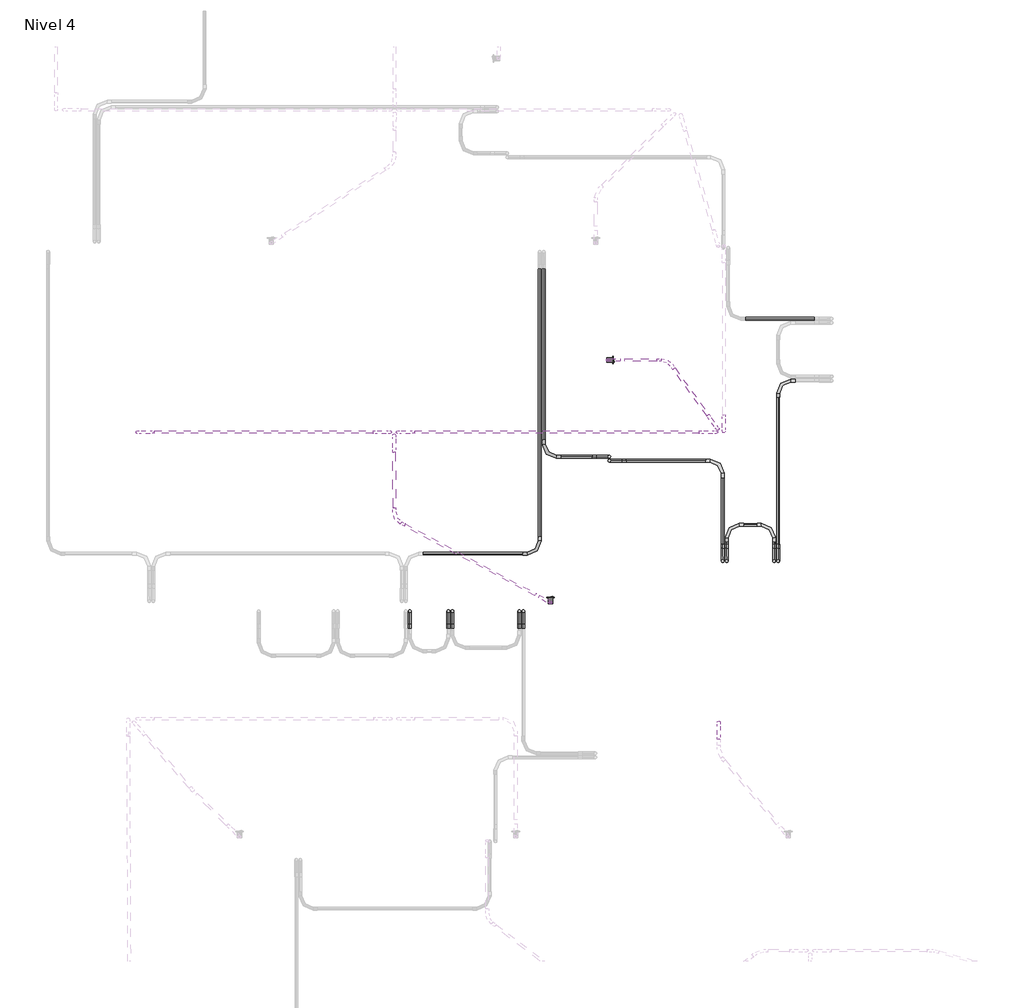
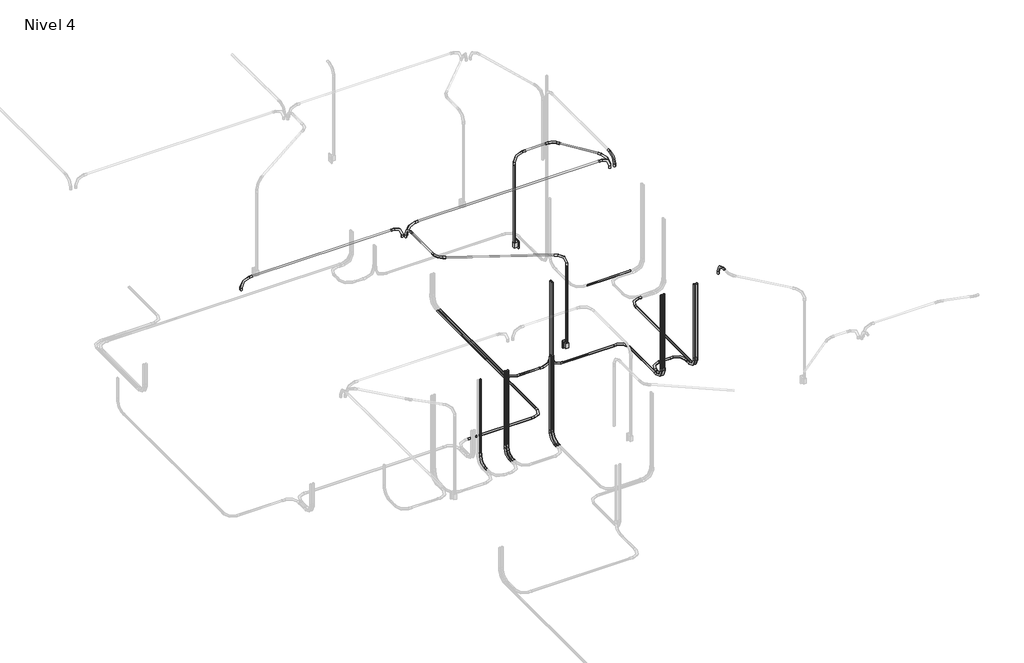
# One storey, part 6 of 9: 30 cable carrier segments, 29 cable carrier fittings, 2 switching devices.
"""IFC4 building model written with IfcOpenShell, lengths in millimetres."""

from ifc_helpers import new_model, si_unit, point, frame, frame_2d, origin, place, context, project, spatial, circle_curve, trimmed, segment, composite_curve, outline, extrude, transform, mapped, element, save
from components import m_codo_de_tubo_extremo_liso_pvc_9da73e12, m_codo_de_tubo_extremo_liso_pvc_102f0f41, m_codo_de_tubo_extremo_liso_pvc_7e29693c, m_codo_de_tubo_extremo_liso_pvc_4da0fa4a, switching_device_22fed34b

model = new_model("IFC4")

# Units and contexts
model_context = context("Model", 3, world=origin())
ifc_project = project(units=[si_unit("LENGTHUNIT", "METRE", prefix="MILLI")], contexts=[model_context])

# Site, building, storey
site = spatial("IfcSite", under=ifc_project)
building = spatial("IfcBuilding", under=site)
storey = spatial("IfcBuildingStorey", under=building, Name="Nivel 4", Elevation=8100.0)

# Cable carrier fittings
placement = place(None, origin())
m_codo_de_tubo_extremo_liso_pvc_shape = m_codo_de_tubo_extremo_liso_pvc_9da73e12(model_context)
element("IfcCableCarrierFitting", 1, ObjectType="M_Codo de tubo - Extremo liso - PVC : CODO POTENCIA", at=placement, inside=storey, context=model_context, shape_type="MappedRepresentation", body=[
    mapped(m_codo_de_tubo_extremo_liso_pvc_shape, transform((5861.9683714, 11082.7648472, 8030.0), x_axis=(-1.0, 0.0, 0.0), y_axis=(0.0, -1.0, 0.0), z_axis=(0.0, 0.0, 1.0))),
])
element("IfcCableCarrierFitting", 2, ObjectType="M_Codo de tubo - Extremo liso - PVC : CODO POTENCIA", at=placement, inside=storey, context=model_context, shape_type="MappedRepresentation", body=[
    mapped(m_codo_de_tubo_extremo_liso_pvc_shape, transform((5861.9683714, 9455.3628882, 8030.0), x_axis=(0.0, 0.0, -1.0), y_axis=(0.0, 1.0, 0.0), z_axis=(1.0, 0.0, 0.0))),
])
element("IfcCableCarrierFitting", 3, ObjectType="M_Codo de tubo - Extremo liso - PVC : CODO POTENCIA", at=placement, inside=storey, context=model_context, shape_type="MappedRepresentation", body=[
    mapped(m_codo_de_tubo_extremo_liso_pvc_shape, transform((5825.9047317, 9455.3628882, 8030.0), x_axis=(0.0, 0.0, -1.0), y_axis=(0.0, 1.0, 0.0), z_axis=(1.0, 0.0, 0.0))),
])
element("IfcCableCarrierFitting", 4, ObjectType="M_Codo de tubo - Extremo liso - PVC : CODO POTENCIA", at=placement, inside=storey, context=model_context, shape_type="MappedRepresentation", body=[
    mapped(m_codo_de_tubo_extremo_liso_pvc_shape, transform((5398.6351606, 9455.3628882, 8030.0), x_axis=(0.0, 0.0, -1.0), y_axis=(0.0, 1.0, 0.0), z_axis=(1.0, 0.0, 0.0))),
])
element("IfcCableCarrierFitting", 5, ObjectType="M_Codo de tubo - Extremo liso - PVC : CODO POTENCIA", at=placement, inside=storey, context=model_context, shape_type="MappedRepresentation", body=[
    mapped(m_codo_de_tubo_extremo_liso_pvc_shape, transform((4340.363469, 10360.1309198, 8030.0), x_axis=(0.0, 0.0, -1.0), y_axis=(1.0, 0.0, 0.0), z_axis=(0.0, -1.0, 0.0))),
])
element("IfcCableCarrierFitting", 6, ObjectType="M_Codo de tubo - Extremo liso - PVC : CODO POTENCIA", at=placement, inside=storey, context=model_context, shape_type="MappedRepresentation", body=[
    mapped(m_codo_de_tubo_extremo_liso_pvc_shape, transform((5825.9047317, 9781.7743992, 8030.0), x_axis=(0.0, 1.0, 0.0), y_axis=(-1.0, 0.0, 0.0), z_axis=(0.0, 0.0, 1.0))),
])
element("IfcCableCarrierFitting", 7, ObjectType="M_Codo de tubo - Extremo liso - PVC : CODO POTENCIA", at=placement, inside=storey, context=model_context, shape_type="MappedRepresentation", body=[
    mapped(m_codo_de_tubo_extremo_liso_pvc_shape, transform((5398.6351606, 9781.7743992, 8030.0), x_axis=(-1.0, 0.0, 0.0), y_axis=(0.0, -1.0, 0.0), z_axis=(0.0, 0.0, 1.0))),
])
element("IfcCableCarrierFitting", 8, ObjectType="M_Codo de tubo - Extremo liso - PVC : CODO POTENCIA", at=placement, inside=storey, context=model_context, shape_type="MappedRepresentation", body=[
    mapped(m_codo_de_tubo_extremo_liso_pvc_shape, transform((5362.571521, 10360.1309198, 8030.0), x_axis=(0.0, 1.0, 0.0), y_axis=(-1.0, 0.0, 0.0), z_axis=(0.0, 0.0, 1.0))),
])
element("IfcCableCarrierFitting", 9, ObjectType="M_Codo de tubo - Extremo liso - PVC : CODO POTENCIA", at=placement, inside=storey, context=model_context, shape_type="MappedRepresentation", body=[
    mapped(m_codo_de_tubo_extremo_liso_pvc_shape, transform((5362.571521, 9455.3628882, 8030.0), x_axis=(0.0, 0.0, -1.0), y_axis=(0.0, 1.0, 0.0), z_axis=(1.0, 0.0, 0.0))),
])
element("IfcCableCarrierFitting", 10, ObjectType="M_Codo de tubo - Extremo liso - PVC : CODO POTENCIA", at=placement, inside=storey, context=model_context, shape_type="MappedRepresentation", body=[
    mapped(m_codo_de_tubo_extremo_liso_pvc_shape, transform((3750.0633148, 10396.1945594, 8030.0), x_axis=(0.0, -1.0, 0.0), y_axis=(1.0, 0.0, 0.0), z_axis=(0.0, 0.0, 1.0))),
])
element("IfcCableCarrierFitting", 11, ObjectType="M_Codo de tubo - Extremo liso - PVC : CODO POTENCIA", at=placement, inside=storey, context=model_context, shape_type="MappedRepresentation", body=[
    mapped(m_codo_de_tubo_extremo_liso_pvc_shape, transform((4340.363469, 10396.1945594, 8030.0), x_axis=(0.0, 0.0, -1.0), y_axis=(-1.0, 0.0, 0.0), z_axis=(0.0, 1.0, 0.0))),
])
element("IfcCableCarrierFitting", 12, ObjectType="M_Codo de tubo - Extremo liso - PVC : CODO POTENCIA", at=placement, inside=storey, context=model_context, shape_type="MappedRepresentation", body=[
    mapped(m_codo_de_tubo_extremo_liso_pvc_shape, transform((3713.9996751, 9523.463856, 8030.0), x_axis=(1.0, 0.0, 0.0), y_axis=(0.0, 1.0, 0.0), z_axis=(0.0, 0.0, 1.0))),
])
element("IfcCableCarrierFitting", 13, ObjectType="M_Codo de tubo - Extremo liso - PVC : CODO POTENCIA", at=placement, inside=storey, context=model_context, shape_type="MappedRepresentation", body=[
    mapped(m_codo_de_tubo_extremo_liso_pvc_shape, transform((2543.7285061, 9004.6371118, 8030.0), x_axis=(0.0, 0.0, -1.0), y_axis=(0.0, -1.0, 0.0), z_axis=(-1.0, 0.0, 0.0))),
])
element("IfcCableCarrierFitting", 14, ObjectType="M_Codo de tubo - Extremo liso - PVC : CODO POTENCIA", at=placement, inside=storey, context=model_context, shape_type="MappedRepresentation", body=[
    mapped(m_codo_de_tubo_extremo_liso_pvc_shape, transform((2890.8449158, 9004.6371118, 8030.0), x_axis=(0.0, 0.0, -1.0), y_axis=(0.0, -1.0, 0.0), z_axis=(-1.0, 0.0, 0.0))),
])
element("IfcCableCarrierFitting", 15, ObjectType="M_Codo de tubo - Extremo liso - PVC : CODO POTENCIA", at=placement, inside=storey, context=model_context, shape_type="MappedRepresentation", body=[
    mapped(m_codo_de_tubo_extremo_liso_pvc_shape, transform((2926.9085554, 9004.6371118, 8030.0), x_axis=(0.0, 0.0, -1.0), y_axis=(0.0, -1.0, 0.0), z_axis=(-1.0, 0.0, 0.0))),
])
element("IfcCableCarrierFitting", 16, ObjectType="M_Codo de tubo - Extremo liso - PVC : CODO POTENCIA", at=placement, inside=storey, context=model_context, shape_type="MappedRepresentation", body=[
    mapped(m_codo_de_tubo_extremo_liso_pvc_shape, transform((3566.4756648, 9004.6371118, 8030.0), x_axis=(0.0, 0.0, -1.0), y_axis=(0.0, -1.0, 0.0), z_axis=(-1.0, 0.0, 0.0))),
])
element("IfcCableCarrierFitting", 17, ObjectType="M_Codo de tubo - Extremo liso - PVC : CODO POTENCIA", at=placement, inside=storey, context=model_context, shape_type="MappedRepresentation", body=[
    mapped(m_codo_de_tubo_extremo_liso_pvc_shape, transform((3530.4120251, 9004.6371118, 8030.0), x_axis=(0.0, 0.0, -1.0), y_axis=(0.0, -1.0, 0.0), z_axis=(-1.0, 0.0, 0.0))),
])
element("IfcCableCarrierFitting", 18, ObjectType="M_Codo de tubo - Extremo liso - PVC : CODO ILUMINACION", at=placement, inside=storey, context=model_context, shape_type="MappedRepresentation", body=[
    mapped(m_codo_de_tubo_extremo_liso_pvc_shape, transform((2433.5664838, 10618.2110616, 10650.0), x_axis=(-1.0, 0.0, 0.0), y_axis=(0.0, 0.0, -1.0), z_axis=(0.0, -1.0, 0.0))),
])
element("IfcCableCarrierFitting", 19, ObjectType="M_Codo de tubo - Extremo liso - PVC : CODO ILUMINACION", at=placement, inside=storey, context=model_context, shape_type="MappedRepresentation", body=[
    mapped(m_codo_de_tubo_extremo_liso_pvc_shape, transform((88.3958853, 10618.2110616, 10650.0), x_axis=(-1.0, 0.0, 0.0), y_axis=(0.0, 0.0, -1.0), z_axis=(0.0, -1.0, 0.0))),
])
element("IfcCableCarrierFitting", 20, ObjectType="M_Codo de tubo - Extremo liso - PVC : CODO ILUMINACION", at=placement, inside=storey, context=model_context, shape_type="MappedRepresentation", body=[
    mapped(m_codo_de_tubo_extremo_liso_pvc_shape, transform((5372.6243482, 10623.5653349, 10650.0), x_axis=(0.0, -1.0, 0.0), y_axis=(0.0, 0.0, -1.0), z_axis=(1.0, 0.0, 0.0))),
])
element("IfcCableCarrierFitting", 21, ObjectType="M_Codo de tubo - Extremo liso - PVC : CODO ILUMINACION", at=placement, inside=storey, context=model_context, shape_type="MappedRepresentation", body=[
    mapped(m_codo_de_tubo_extremo_liso_pvc_shape, transform((4326.8617051, 11267.6086695, 10650.0), x_axis=(0.0, 0.0, 1.0), y_axis=(1.0, 0.0, 0.0), z_axis=(0.0, 1.0, 0.0))),
])
element("IfcCableCarrierFitting", 22, ObjectType="M_Codo de tubo - Extremo liso - PVC : CODO ILUMINACION", at=placement, inside=storey, context=model_context, shape_type="MappedRepresentation", body=[
    mapped(m_codo_de_tubo_extremo_liso_pvc_shape, transform((2401.0317774, 10589.9698383, 10650.0), x_axis=(-0.003640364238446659, 0.9999933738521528, 0.0), y_axis=(0.0, 0.0, -1.0), z_axis=(-0.9999933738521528, -0.003640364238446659, 0.0))),
])
element("IfcCableCarrierFitting", 23, ObjectType="M_Codo de tubo - Extremo liso - PVC : CODO ILUMINACION", at=placement, inside=storey, context=model_context, shape_type="MappedRepresentation", body=[
    mapped(m_codo_de_tubo_extremo_liso_pvc_shape, transform((3809.679356, 9081.8611243, 10650.0), x_axis=(0.0, 0.0, 1.0), y_axis=(-0.882947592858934, 0.46947156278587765, 0.0), z_axis=(-0.46947156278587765, -0.882947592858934, 0.0))),
])
element("IfcCableCarrierFitting", 24, ObjectType="M_Codo de tubo - Extremo liso - PVC : CODO ILUMINACION", at=placement, inside=storey, context=model_context, shape_type="MappedRepresentation", body=[
    mapped(m_codo_de_tubo_extremo_liso_pvc_shape, transform((5326.8335186, 8002.6414157, 10650.0), x_axis=(0.0, 1.0, 0.0), y_axis=(0.0, 0.0, -1.0), z_axis=(-1.0, 0.0, 0.0))),
])
m_codo_de_tubo_extremo_liso_pvc_2_shape = m_codo_de_tubo_extremo_liso_pvc_102f0f41(model_context)
element("IfcCableCarrierFitting", 25, ObjectType="M_Codo de tubo - Extremo liso - PVC : CODO ILUMINACION", at=placement, inside=storey, context=model_context, shape_type="MappedRepresentation", body=[
    mapped(m_codo_de_tubo_extremo_liso_pvc_2_shape, transform((5305.5362229, 10618.2110616, 10650.0), x_axis=(1.0, 0.0, 0.0), y_axis=(0.0, 0.0, 1.0), z_axis=(0.0, -1.0, 0.0))),
])
element("IfcCableCarrierFitting", 26, ObjectType="M_Codo de tubo - Extremo liso - PVC : CODO ILUMINACION", at=placement, inside=storey, context=model_context, shape_type="MappedRepresentation", body=[
    mapped(m_codo_de_tubo_extremo_liso_pvc_2_shape, transform((2365.5362229, 10618.2110616, 10650.0), x_axis=(1.0, 0.0, 0.0), y_axis=(0.0, 0.0, 1.0), z_axis=(0.0, -1.0, 0.0))),
])
element("IfcCableCarrierFitting", 27, ObjectType="M_Codo de tubo - Extremo liso - PVC : CODO ILUMINACION", at=placement, inside=storey, context=model_context, shape_type="MappedRepresentation", body=[
    mapped(m_codo_de_tubo_extremo_liso_pvc_2_shape, transform((5317.7730141, 10646.6392543, 10650.0), x_axis=(0.587785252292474, -0.8090169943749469, 0.0), y_axis=(0.0, 0.0, 1.0000000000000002), z_axis=(-0.8090169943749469, -0.587785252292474, 0.0))),
])
m_codo_de_tubo_extremo_liso_pvc_3_shape = m_codo_de_tubo_extremo_liso_pvc_7e29693c(model_context)
element("IfcCableCarrierFitting", 28, ObjectType="M_Codo de tubo - Extremo liso - PVC : CODO ILUMINACION", at=placement, inside=storey, context=model_context, shape_type="MappedRepresentation", body=[
    mapped(m_codo_de_tubo_extremo_liso_pvc_3_shape, transform((4866.6123254, 11267.6086695, 10650.0), x_axis=(-0.5877852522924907, 0.8090169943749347, 0.0), y_axis=(-0.8090169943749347, -0.5877852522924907, 0.0), z_axis=(0.0, 0.0, 1.0))),
])
m_codo_de_tubo_extremo_liso_pvc_4_shape = m_codo_de_tubo_extremo_liso_pvc_4da0fa4a(model_context)
element("IfcCableCarrierFitting", 29, ObjectType="M_Codo de tubo - Extremo liso - PVC : CODO ILUMINACION", at=placement, inside=storey, context=model_context, shape_type="MappedRepresentation", body=[
    mapped(m_codo_de_tubo_extremo_liso_pvc_4_shape, transform((2403.8006194, 9829.3801084, 10650.0), x_axis=(0.0036403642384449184, -0.9999933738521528, 0.0), y_axis=(0.9999933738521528, 0.0036403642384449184, 0.0), z_axis=(0.0, 0.0, 1.0))),
])

# Cable carrier segments
element("IfcCableCarrierSegment", 30, ObjectType="PVC-SEL, POTENCIA", at=placement, inside=storey, context=model_context, shape_type="SweptSolid", body=[
    extrude(outline(composite_curve([segment(trimmed(circle_curve(frame_2d((11639.3432469, 8030.0)), 11.71), [point((11651.0532469, 8030.0))], [point((11639.3432469, 8018.29))], False, "CARTESIAN"), True, "CONTINUOUS"), segment(trimmed(circle_curve(frame_2d((11639.3432469, 8030.0)), 11.71), [point((11639.3432469, 8018.29))], [point((11627.6332469, 8030.0))], False, "CARTESIAN"), True, "CONTINUOUS"), segment(trimmed(circle_curve(frame_2d((11639.3432469, 8030.0)), 11.71), [point((11627.6332469, 8030.0))], [point((11639.3432469, 8041.71))], False, "CARTESIAN"), True, "CONTINUOUS"), segment(trimmed(circle_curve(frame_2d((11639.3432469, 8030.0)), 11.71), [point((11639.3432469, 8041.71))], [point((11651.0532469, 8030.0))], False, "CARTESIAN"), True, "CONTINUOUS")], self_intersect=False)), frame((5563.847338, 0.0, 0.0), z_axis=(1.0, 0.0, 0.0), x_axis=(0.0, 1.0, 0.0)), (0.0, 0.0, 1.0), 628.3897738),
])
element("IfcCableCarrierSegment", 31, ObjectType="PVC-SEL, POTENCIA", at=placement, inside=storey, context=model_context, shape_type="SweptSolid", body=[
    extrude(outline(composite_curve([segment(trimmed(circle_curve(frame_2d((8030.0, 5861.9683714)), 11.71), [point((8030.0, 5850.2583714))], [point((8018.29, 5861.9683714))], False, "CARTESIAN"), True, "CONTINUOUS"), segment(trimmed(circle_curve(frame_2d((8030.0, 5861.9683714)), 11.71), [point((8018.29, 5861.9683714))], [point((8030.0, 5873.6783714))], False, "CARTESIAN"), True, "CONTINUOUS"), segment(trimmed(circle_curve(frame_2d((8030.0, 5861.9683714)), 11.71), [point((8030.0, 5873.6783714))], [point((8041.71, 5861.9683714))], False, "CARTESIAN"), True, "CONTINUOUS"), segment(trimmed(circle_curve(frame_2d((8030.0, 5861.9683714)), 11.71), [point((8041.71, 5861.9683714))], [point((8030.0, 5850.2583714))], False, "CARTESIAN"), True, "CONTINUOUS")], self_intersect=False)), frame((0.0, 9607.7628882, 0.0), z_axis=(0.0, 1.0, 0.0), x_axis=(0.0, 0.0, 1.0)), (0.0, 0.0, 1.0), 1322.6019589),
])
element("IfcCableCarrierSegment", 32, ObjectType="PVC-SEL, POTENCIA", at=placement, inside=storey, context=model_context, shape_type="SweptSolid", body=[
    extrude(outline(composite_curve([segment(trimmed(circle_curve(frame_2d((5861.9683714, 9455.3628882)), 11.71), [point((5873.6783714, 9455.3628882))], [point((5861.9683714, 9443.6528882))], False, "CARTESIAN"), True, "CONTINUOUS"), segment(trimmed(circle_curve(frame_2d((5861.9683714, 9455.3628882)), 11.71), [point((5861.9683714, 9443.6528882))], [point((5850.2583714, 9455.3628882))], False, "CARTESIAN"), True, "CONTINUOUS"), segment(trimmed(circle_curve(frame_2d((5861.9683714, 9455.3628882)), 11.71), [point((5850.2583714, 9455.3628882))], [point((5861.9683714, 9467.0728882))], False, "CARTESIAN"), True, "CONTINUOUS"), segment(trimmed(circle_curve(frame_2d((5861.9683714, 9455.3628882)), 11.71), [point((5861.9683714, 9467.0728882))], [point((5873.6783714, 9455.3628882))], False, "CARTESIAN"), True, "CONTINUOUS")], self_intersect=False)), frame((0.0, 0.0, 8182.4), z_axis=(0.0, 0.0, 1.0), x_axis=(1.0, 0.0, 0.0)), (0.0, 0.0, 1.0), 1097.3020537),
])
element("IfcCableCarrierSegment", 33, ObjectType="PVC-SEL, POTENCIA", at=placement, inside=storey, context=model_context, shape_type="SweptSolid", body=[
    extrude(outline(composite_curve([segment(trimmed(circle_curve(frame_2d((8030.0, 5825.9047317)), 11.71), [point((8030.0, 5837.6147317))], [point((8041.71, 5825.9047317))], False, "CARTESIAN"), True, "CONTINUOUS"), segment(trimmed(circle_curve(frame_2d((8030.0, 5825.9047317)), 11.71), [point((8041.71, 5825.9047317))], [point((8030.0, 5814.1947317))], False, "CARTESIAN"), True, "CONTINUOUS"), segment(trimmed(circle_curve(frame_2d((8030.0, 5825.9047317)), 11.71), [point((8030.0, 5814.1947317))], [point((8018.29, 5825.9047317))], False, "CARTESIAN"), True, "CONTINUOUS"), segment(trimmed(circle_curve(frame_2d((8030.0, 5825.9047317)), 11.71), [point((8018.29, 5825.9047317))], [point((8030.0, 5837.6147317))], False, "CARTESIAN"), True, "CONTINUOUS")], self_intersect=False)), frame((0.0, 9607.7628882, 0.0), z_axis=(0.0, 1.0, 0.0), x_axis=(0.0, 0.0, 1.0)), (0.0, 0.0, 1.0), 21.611511),
])
element("IfcCableCarrierSegment", 34, ObjectType="PVC-SEL, POTENCIA", at=placement, inside=storey, context=model_context, shape_type="SweptSolid", body=[
    extrude(outline(composite_curve([segment(trimmed(circle_curve(frame_2d((5825.9047317, 9455.3628882)), 11.71), [point((5837.6147317, 9455.3628882))], [point((5825.9047317, 9443.6528882))], False, "CARTESIAN"), True, "CONTINUOUS"), segment(trimmed(circle_curve(frame_2d((5825.9047317, 9455.3628882)), 11.71), [point((5825.9047317, 9443.6528882))], [point((5814.1947317, 9455.3628882))], False, "CARTESIAN"), True, "CONTINUOUS"), segment(trimmed(circle_curve(frame_2d((5825.9047317, 9455.3628882)), 11.71), [point((5814.1947317, 9455.3628882))], [point((5825.9047317, 9467.0728882))], False, "CARTESIAN"), True, "CONTINUOUS"), segment(trimmed(circle_curve(frame_2d((5825.9047317, 9455.3628882)), 11.71), [point((5825.9047317, 9467.0728882))], [point((5837.6147317, 9455.3628882))], False, "CARTESIAN"), True, "CONTINUOUS")], self_intersect=False)), frame((0.0, 0.0, 8182.4), z_axis=(0.0, 0.0, 1.0), x_axis=(1.0, 0.0, 0.0)), (0.0, 0.0, 1.0), 1097.3020537),
])
element("IfcCableCarrierSegment", 35, ObjectType="PVC-SEL, POTENCIA", at=placement, inside=storey, context=model_context, shape_type="SweptSolid", body=[
    extrude(outline(composite_curve([segment(trimmed(circle_curve(frame_2d((8030.0, 5398.6351606)), 11.71), [point((8030.0, 5410.3451606))], [point((8041.71, 5398.6351606))], False, "CARTESIAN"), True, "CONTINUOUS"), segment(trimmed(circle_curve(frame_2d((8030.0, 5398.6351606)), 11.71), [point((8041.71, 5398.6351606))], [point((8030.0, 5386.9251606))], False, "CARTESIAN"), True, "CONTINUOUS"), segment(trimmed(circle_curve(frame_2d((8030.0, 5398.6351606)), 11.71), [point((8030.0, 5386.9251606))], [point((8018.29, 5398.6351606))], False, "CARTESIAN"), True, "CONTINUOUS"), segment(trimmed(circle_curve(frame_2d((8030.0, 5398.6351606)), 11.71), [point((8018.29, 5398.6351606))], [point((8030.0, 5410.3451606))], False, "CARTESIAN"), True, "CONTINUOUS")], self_intersect=False)), frame((0.0, 9607.7628882, 0.0), z_axis=(0.0, 1.0, 0.0), x_axis=(0.0, 0.0, 1.0)), (0.0, 0.0, 1.0), 21.611511),
])
element("IfcCableCarrierSegment", 36, ObjectType="PVC-SEL, POTENCIA", at=placement, inside=storey, context=model_context, shape_type="SweptSolid", body=[
    extrude(outline(composite_curve([segment(trimmed(circle_curve(frame_2d((5398.6351606, 9455.3628882)), 11.71), [point((5410.3451606, 9455.3628882))], [point((5398.6351606, 9443.6528882))], False, "CARTESIAN"), True, "CONTINUOUS"), segment(trimmed(circle_curve(frame_2d((5398.6351606, 9455.3628882)), 11.71), [point((5398.6351606, 9443.6528882))], [point((5386.9251606, 9455.3628882))], False, "CARTESIAN"), True, "CONTINUOUS"), segment(trimmed(circle_curve(frame_2d((5398.6351606, 9455.3628882)), 11.71), [point((5386.9251606, 9455.3628882))], [point((5398.6351606, 9467.0728882))], False, "CARTESIAN"), True, "CONTINUOUS"), segment(trimmed(circle_curve(frame_2d((5398.6351606, 9455.3628882)), 11.71), [point((5398.6351606, 9467.0728882))], [point((5410.3451606, 9455.3628882))], False, "CARTESIAN"), True, "CONTINUOUS")], self_intersect=False)), frame((0.0, 0.0, 8182.4), z_axis=(0.0, 0.0, 1.0), x_axis=(1.0, 0.0, 0.0)), (0.0, 0.0, 1.0), 1097.3020537),
])
element("IfcCableCarrierSegment", 37, ObjectType="PVC-SEL, POTENCIA", at=placement, inside=storey, context=model_context, shape_type="SweptSolid", body=[
    extrude(outline(composite_curve([segment(trimmed(circle_curve(frame_2d((8030.0, 5362.571521)), 11.71), [point((8030.0, 5350.861521))], [point((8018.29, 5362.571521))], False, "CARTESIAN"), True, "CONTINUOUS"), segment(trimmed(circle_curve(frame_2d((8030.0, 5362.571521)), 11.71), [point((8018.29, 5362.571521))], [point((8030.0, 5374.281521))], False, "CARTESIAN"), True, "CONTINUOUS"), segment(trimmed(circle_curve(frame_2d((8030.0, 5362.571521)), 11.71), [point((8030.0, 5374.281521))], [point((8041.71, 5362.571521))], False, "CARTESIAN"), True, "CONTINUOUS"), segment(trimmed(circle_curve(frame_2d((8030.0, 5362.571521)), 11.71), [point((8041.71, 5362.571521))], [point((8030.0, 5350.861521))], False, "CARTESIAN"), True, "CONTINUOUS")], self_intersect=False)), frame((0.0, 9607.7628882, 0.0), z_axis=(0.0, 1.0, 0.0), x_axis=(0.0, 0.0, 1.0)), (0.0, 0.0, 1.0), 599.9680316),
])
element("IfcCableCarrierSegment", 38, ObjectType="PVC-SEL, POTENCIA", at=placement, inside=storey, context=model_context, shape_type="SweptSolid", body=[
    extrude(outline(composite_curve([segment(trimmed(circle_curve(frame_2d((5362.571521, 9455.3628882)), 11.71), [point((5374.281521, 9455.3628882))], [point((5362.571521, 9443.6528882))], False, "CARTESIAN"), True, "CONTINUOUS"), segment(trimmed(circle_curve(frame_2d((5362.571521, 9455.3628882)), 11.71), [point((5362.571521, 9443.6528882))], [point((5350.861521, 9455.3628882))], False, "CARTESIAN"), True, "CONTINUOUS"), segment(trimmed(circle_curve(frame_2d((5362.571521, 9455.3628882)), 11.71), [point((5350.861521, 9455.3628882))], [point((5362.571521, 9467.0728882))], False, "CARTESIAN"), True, "CONTINUOUS"), segment(trimmed(circle_curve(frame_2d((5362.571521, 9455.3628882)), 11.71), [point((5362.571521, 9467.0728882))], [point((5374.281521, 9455.3628882))], False, "CARTESIAN"), True, "CONTINUOUS")], self_intersect=False)), frame((0.0, 0.0, 8182.4), z_axis=(0.0, 0.0, 1.0), x_axis=(1.0, 0.0, 0.0)), (0.0, 0.0, 1.0), 1097.3020537),
])
element("IfcCableCarrierSegment", 39, ObjectType="PVC-SEL, POTENCIA", at=placement, inside=storey, context=model_context, shape_type="SweptSolid", body=[
    extrude(outline(composite_curve([segment(trimmed(circle_curve(frame_2d((10360.1309198, 8030.0)), 11.71), [point((10348.4209198, 8030.0))], [point((10360.1309198, 8041.71))], False, "CARTESIAN"), True, "CONTINUOUS"), segment(trimmed(circle_curve(frame_2d((10360.1309198, 8030.0)), 11.71), [point((10360.1309198, 8041.71))], [point((10371.8409198, 8030.0))], False, "CARTESIAN"), True, "CONTINUOUS"), segment(trimmed(circle_curve(frame_2d((10360.1309198, 8030.0)), 11.71), [point((10371.8409198, 8030.0))], [point((10360.1309198, 8018.29))], False, "CARTESIAN"), True, "CONTINUOUS"), segment(trimmed(circle_curve(frame_2d((10360.1309198, 8030.0)), 11.71), [point((10360.1309198, 8018.29))], [point((10348.4209198, 8030.0))], False, "CARTESIAN"), True, "CONTINUOUS")], self_intersect=False)), frame((4492.763469, 0.0, 0.0), z_axis=(1.0, 0.0, 0.0), x_axis=(0.0, 1.0, 0.0)), (0.0, 0.0, 1.0), 717.408052),
])
element("IfcCableCarrierSegment", 40, ObjectType="PVC-SEL, POTENCIA", at=placement, inside=storey, context=model_context, shape_type="SweptSolid", body=[
    extrude(outline(composite_curve([segment(trimmed(circle_curve(frame_2d((4340.363469, 10360.1309198)), 11.71), [point((4352.073469, 10360.1309198))], [point((4340.363469, 10348.4209198))], False, "CARTESIAN"), True, "CONTINUOUS"), segment(trimmed(circle_curve(frame_2d((4340.363469, 10360.1309198)), 11.71), [point((4340.363469, 10348.4209198))], [point((4328.653469, 10360.1309198))], False, "CARTESIAN"), True, "CONTINUOUS"), segment(trimmed(circle_curve(frame_2d((4340.363469, 10360.1309198)), 11.71), [point((4328.653469, 10360.1309198))], [point((4340.363469, 10371.8409198))], False, "CARTESIAN"), True, "CONTINUOUS"), segment(trimmed(circle_curve(frame_2d((4340.363469, 10360.1309198)), 11.71), [point((4340.363469, 10371.8409198))], [point((4352.073469, 10360.1309198))], False, "CARTESIAN"), True, "CONTINUOUS")], self_intersect=False)), frame((0.0, 0.0, 8182.4), z_axis=(0.0, 0.0, 1.0), x_axis=(1.0, 0.0, 0.0)), (0.0, 0.0, 1.0), 1097.3020537),
])
element("IfcCableCarrierSegment", 41, ObjectType="PVC-SEL, POTENCIA", at=placement, inside=storey, context=model_context, shape_type="SweptSolid", body=[
    extrude(outline(composite_curve([segment(trimmed(circle_curve(frame_2d((10396.1945594, 8030.0)), 11.71), [point((10384.4845594, 8030.0))], [point((10396.1945594, 8041.71))], False, "CARTESIAN"), True, "CONTINUOUS"), segment(trimmed(circle_curve(frame_2d((10396.1945594, 8030.0)), 11.71), [point((10396.1945594, 8041.71))], [point((10407.9045594, 8030.0))], False, "CARTESIAN"), True, "CONTINUOUS"), segment(trimmed(circle_curve(frame_2d((10396.1945594, 8030.0)), 11.71), [point((10407.9045594, 8030.0))], [point((10396.1945594, 8018.29))], False, "CARTESIAN"), True, "CONTINUOUS"), segment(trimmed(circle_curve(frame_2d((10396.1945594, 8030.0)), 11.71), [point((10396.1945594, 8018.29))], [point((10384.4845594, 8030.0))], False, "CARTESIAN"), True, "CONTINUOUS")], self_intersect=False)), frame((3902.4633148, 0.0, 0.0), z_axis=(1.0, 0.0, 0.0), x_axis=(0.0, 1.0, 0.0)), (0.0, 0.0, 1.0), 285.5001542),
])
element("IfcCableCarrierSegment", 42, ObjectType="PVC-SEL, POTENCIA", at=placement, inside=storey, context=model_context, shape_type="SweptSolid", body=[
    extrude(outline(composite_curve([segment(trimmed(circle_curve(frame_2d((4340.363469, 10396.1945594)), 11.71), [point((4352.073469, 10396.1945594))], [point((4340.363469, 10384.4845594))], False, "CARTESIAN"), True, "CONTINUOUS"), segment(trimmed(circle_curve(frame_2d((4340.363469, 10396.1945594)), 11.71), [point((4340.363469, 10384.4845594))], [point((4328.653469, 10396.1945594))], False, "CARTESIAN"), True, "CONTINUOUS"), segment(trimmed(circle_curve(frame_2d((4340.363469, 10396.1945594)), 11.71), [point((4328.653469, 10396.1945594))], [point((4340.363469, 10407.9045594))], False, "CARTESIAN"), True, "CONTINUOUS"), segment(trimmed(circle_curve(frame_2d((4340.363469, 10396.1945594)), 11.71), [point((4340.363469, 10407.9045594))], [point((4352.073469, 10396.1945594))], False, "CARTESIAN"), True, "CONTINUOUS")], self_intersect=False)), frame((0.0, 0.0, 8182.4), z_axis=(0.0, 0.0, 1.0), x_axis=(1.0, 0.0, 0.0)), (0.0, 0.0, 1.0), 1097.3020537),
])
element("IfcCableCarrierSegment", 43, ObjectType="PVC-SEL, POTENCIA", at=placement, inside=storey, context=model_context, shape_type="SweptSolid", body=[
    extrude(outline(composite_curve([segment(trimmed(circle_curve(frame_2d((9781.7743992, 8030.0)), 11.71), [point((9793.4843992, 8030.0))], [point((9781.7743992, 8018.29))], False, "CARTESIAN"), True, "CONTINUOUS"), segment(trimmed(circle_curve(frame_2d((9781.7743992, 8030.0)), 11.71), [point((9781.7743992, 8018.29))], [point((9770.0643992, 8030.0))], False, "CARTESIAN"), True, "CONTINUOUS"), segment(trimmed(circle_curve(frame_2d((9781.7743992, 8030.0)), 11.71), [point((9770.0643992, 8030.0))], [point((9781.7743992, 8041.71))], False, "CARTESIAN"), True, "CONTINUOUS"), segment(trimmed(circle_curve(frame_2d((9781.7743992, 8030.0)), 11.71), [point((9781.7743992, 8041.71))], [point((9793.4843992, 8030.0))], False, "CARTESIAN"), True, "CONTINUOUS")], self_intersect=False)), frame((5551.0351606, 0.0, 0.0), z_axis=(1.0, 0.0, 0.0), x_axis=(0.0, 1.0, 0.0)), (0.0, 0.0, 1.0), 122.4695711),
])
element("IfcCableCarrierSegment", 44, ObjectType="PVC-SEL, POTENCIA", at=placement, inside=storey, context=model_context, shape_type="SweptSolid", body=[
    extrude(outline(composite_curve([segment(trimmed(circle_curve(frame_2d((8030.0, 3750.0633148)), 11.71), [point((8030.0, 3738.3533148))], [point((8018.29, 3750.0633148))], False, "CARTESIAN"), True, "CONTINUOUS"), segment(trimmed(circle_curve(frame_2d((8030.0, 3750.0633148)), 11.71), [point((8018.29, 3750.0633148))], [point((8030.0, 3761.7733148))], False, "CARTESIAN"), True, "CONTINUOUS"), segment(trimmed(circle_curve(frame_2d((8030.0, 3750.0633148)), 11.71), [point((8030.0, 3761.7733148))], [point((8041.71, 3750.0633148))], False, "CARTESIAN"), True, "CONTINUOUS"), segment(trimmed(circle_curve(frame_2d((8030.0, 3750.0633148)), 11.71), [point((8041.71, 3750.0633148))], [point((8030.0, 3738.3533148))], False, "CARTESIAN"), True, "CONTINUOUS")], self_intersect=False)), frame((0.0, 10548.5945594, 0.0), z_axis=(0.0, 1.0, 0.0), x_axis=(0.0, 0.0, 1.0)), (0.0, 0.0, 1.0), 1543.6425523),
])
element("IfcCableCarrierSegment", 45, ObjectType="PVC-SEL, POTENCIA", at=placement, inside=storey, context=model_context, shape_type="SweptSolid", body=[
    extrude(outline(composite_curve([segment(trimmed(circle_curve(frame_2d((8030.0, 3713.9996751)), 11.71), [point((8030.0, 3702.2896751))], [point((8018.29, 3713.9996751))], False, "CARTESIAN"), True, "CONTINUOUS"), segment(trimmed(circle_curve(frame_2d((8030.0, 3713.9996751)), 11.71), [point((8018.29, 3713.9996751))], [point((8030.0, 3725.7096751))], False, "CARTESIAN"), True, "CONTINUOUS"), segment(trimmed(circle_curve(frame_2d((8030.0, 3713.9996751)), 11.71), [point((8030.0, 3725.7096751))], [point((8041.71, 3713.9996751))], False, "CARTESIAN"), True, "CONTINUOUS"), segment(trimmed(circle_curve(frame_2d((8030.0, 3713.9996751)), 11.71), [point((8041.71, 3713.9996751))], [point((8030.0, 3702.2896751))], False, "CARTESIAN"), True, "CONTINUOUS")], self_intersect=False)), frame((0.0, 9675.863856, 0.0), z_axis=(0.0, 1.0, 0.0), x_axis=(0.0, 0.0, 1.0)), (0.0, 0.0, 1.0), 2416.3732558),
])
element("IfcCableCarrierSegment", 46, ObjectType="PVC-SEL, POTENCIA", at=placement, inside=storey, context=model_context, shape_type="SweptSolid", body=[
    extrude(outline(composite_curve([segment(trimmed(circle_curve(frame_2d((9523.463856, 8030.0)), 11.71), [point((9535.173856, 8030.0))], [point((9523.463856, 8018.29))], False, "CARTESIAN"), True, "CONTINUOUS"), segment(trimmed(circle_curve(frame_2d((9523.463856, 8030.0)), 11.71), [point((9523.463856, 8018.29))], [point((9511.753856, 8030.0))], False, "CARTESIAN"), True, "CONTINUOUS"), segment(trimmed(circle_curve(frame_2d((9523.463856, 8030.0)), 11.71), [point((9511.753856, 8030.0))], [point((9523.463856, 8041.71))], False, "CARTESIAN"), True, "CONTINUOUS"), segment(trimmed(circle_curve(frame_2d((9523.463856, 8030.0)), 11.71), [point((9523.463856, 8041.71))], [point((9535.173856, 8030.0))], False, "CARTESIAN"), True, "CONTINUOUS")], self_intersect=False)), frame((2660.3923837, 0.0, 0.0), z_axis=(1.0, 0.0, 0.0), x_axis=(0.0, 1.0, 0.0)), (0.0, 0.0, 1.0), 901.2072914),
])
element("IfcCableCarrierSegment", 47, ObjectType="PVC-SEL, POTENCIA", at=placement, inside=storey, context=model_context, shape_type="SweptSolid", body=[
    extrude(outline(composite_curve([segment(trimmed(circle_curve(frame_2d((2543.7285061, 9004.6371118)), 11.71), [point((2555.4385061, 9004.6371118))], [point((2543.7285061, 8992.9271118))], False, "CARTESIAN"), True, "CONTINUOUS"), segment(trimmed(circle_curve(frame_2d((2543.7285061, 9004.6371118)), 11.71), [point((2543.7285061, 8992.9271118))], [point((2532.0185061, 9004.6371118))], False, "CARTESIAN"), True, "CONTINUOUS"), segment(trimmed(circle_curve(frame_2d((2543.7285061, 9004.6371118)), 11.71), [point((2532.0185061, 9004.6371118))], [point((2543.7285061, 9016.3471118))], False, "CARTESIAN"), True, "CONTINUOUS"), segment(trimmed(circle_curve(frame_2d((2543.7285061, 9004.6371118)), 11.71), [point((2543.7285061, 9016.3471118))], [point((2555.4385061, 9004.6371118))], False, "CARTESIAN"), True, "CONTINUOUS")], self_intersect=False)), frame((0.0, 0.0, 8182.4), z_axis=(0.0, 0.0, 1.0), x_axis=(1.0, 0.0, 0.0)), (0.0, 0.0, 1.0), 1097.3020537),
])
element("IfcCableCarrierSegment", 48, ObjectType="PVC-SEL, POTENCIA", at=placement, inside=storey, context=model_context, shape_type="SweptSolid", body=[
    extrude(outline(composite_curve([segment(trimmed(circle_curve(frame_2d((2890.8449158, 9004.6371118)), 11.71), [point((2902.5549158, 9004.6371118))], [point((2890.8449158, 8992.9271118))], False, "CARTESIAN"), True, "CONTINUOUS"), segment(trimmed(circle_curve(frame_2d((2890.8449158, 9004.6371118)), 11.71), [point((2890.8449158, 8992.9271118))], [point((2879.1349158, 9004.6371118))], False, "CARTESIAN"), True, "CONTINUOUS"), segment(trimmed(circle_curve(frame_2d((2890.8449158, 9004.6371118)), 11.71), [point((2879.1349158, 9004.6371118))], [point((2890.8449158, 9016.3471118))], False, "CARTESIAN"), True, "CONTINUOUS"), segment(trimmed(circle_curve(frame_2d((2890.8449158, 9004.6371118)), 11.71), [point((2890.8449158, 9016.3471118))], [point((2902.5549158, 9004.6371118))], False, "CARTESIAN"), True, "CONTINUOUS")], self_intersect=False)), frame((0.0, 0.0, 8182.4), z_axis=(0.0, 0.0, 1.0), x_axis=(1.0, 0.0, 0.0)), (0.0, 0.0, 1.0), 1097.3020537),
])
element("IfcCableCarrierSegment", 49, ObjectType="PVC-SEL, POTENCIA", at=placement, inside=storey, context=model_context, shape_type="SweptSolid", body=[
    extrude(outline(composite_curve([segment(trimmed(circle_curve(frame_2d((2926.9085554, 9004.6371118)), 11.71), [point((2938.6185554, 9004.6371118))], [point((2926.9085554, 8992.9271118))], False, "CARTESIAN"), True, "CONTINUOUS"), segment(trimmed(circle_curve(frame_2d((2926.9085554, 9004.6371118)), 11.71), [point((2926.9085554, 8992.9271118))], [point((2915.1985554, 9004.6371118))], False, "CARTESIAN"), True, "CONTINUOUS"), segment(trimmed(circle_curve(frame_2d((2926.9085554, 9004.6371118)), 11.71), [point((2915.1985554, 9004.6371118))], [point((2926.9085554, 9016.3471118))], False, "CARTESIAN"), True, "CONTINUOUS"), segment(trimmed(circle_curve(frame_2d((2926.9085554, 9004.6371118)), 11.71), [point((2926.9085554, 9016.3471118))], [point((2938.6185554, 9004.6371118))], False, "CARTESIAN"), True, "CONTINUOUS")], self_intersect=False)), frame((0.0, 0.0, 8182.4), z_axis=(0.0, 0.0, 1.0), x_axis=(1.0, 0.0, 0.0)), (0.0, 0.0, 1.0), 1097.3020537),
])
element("IfcCableCarrierSegment", 50, ObjectType="PVC-SEL, POTENCIA", at=placement, inside=storey, context=model_context, shape_type="SweptSolid", body=[
    extrude(outline(composite_curve([segment(trimmed(circle_curve(frame_2d((3530.4120251, 9004.6371118)), 11.71), [point((3542.1220251, 9004.6371118))], [point((3530.4120251, 8992.9271118))], False, "CARTESIAN"), True, "CONTINUOUS"), segment(trimmed(circle_curve(frame_2d((3530.4120251, 9004.6371118)), 11.71), [point((3530.4120251, 8992.9271118))], [point((3518.7020251, 9004.6371118))], False, "CARTESIAN"), True, "CONTINUOUS"), segment(trimmed(circle_curve(frame_2d((3530.4120251, 9004.6371118)), 11.71), [point((3518.7020251, 9004.6371118))], [point((3530.4120251, 9016.3471118))], False, "CARTESIAN"), True, "CONTINUOUS"), segment(trimmed(circle_curve(frame_2d((3530.4120251, 9004.6371118)), 11.71), [point((3530.4120251, 9016.3471118))], [point((3542.1220251, 9004.6371118))], False, "CARTESIAN"), True, "CONTINUOUS")], self_intersect=False)), frame((0.0, 0.0, 8182.4), z_axis=(0.0, 0.0, 1.0), x_axis=(1.0, 0.0, 0.0)), (0.0, 0.0, 1.0), 1097.3020537),
])
element("IfcCableCarrierSegment", 51, ObjectType="PVC-SEL, POTENCIA", at=placement, inside=storey, context=model_context, shape_type="SweptSolid", body=[
    extrude(outline(composite_curve([segment(trimmed(circle_curve(frame_2d((3566.4756648, 9004.6371118)), 11.71), [point((3578.1856648, 9004.6371118))], [point((3566.4756648, 8992.9271118))], False, "CARTESIAN"), True, "CONTINUOUS"), segment(trimmed(circle_curve(frame_2d((3566.4756648, 9004.6371118)), 11.71), [point((3566.4756648, 8992.9271118))], [point((3554.7656648, 9004.6371118))], False, "CARTESIAN"), True, "CONTINUOUS"), segment(trimmed(circle_curve(frame_2d((3566.4756648, 9004.6371118)), 11.71), [point((3554.7656648, 9004.6371118))], [point((3566.4756648, 9016.3471118))], False, "CARTESIAN"), True, "CONTINUOUS"), segment(trimmed(circle_curve(frame_2d((3566.4756648, 9004.6371118)), 11.71), [point((3566.4756648, 9016.3471118))], [point((3578.1856648, 9004.6371118))], False, "CARTESIAN"), True, "CONTINUOUS")], self_intersect=False)), frame((0.0, 0.0, 8182.4), z_axis=(0.0, 0.0, 1.0), x_axis=(1.0, 0.0, 0.0)), (0.0, 0.0, 1.0), 1097.3020537),
])
element("IfcCableCarrierSegment", 52, ObjectType="PVC-SEL ILUMINACION", at=placement, inside=storey, context=model_context, shape_type="SweptSolid", body=[
    extrude(outline(composite_curve([segment(trimmed(circle_curve(frame_2d((10618.2110616, 10650.0)), 11.71), [point((10629.9210616, 10650.0))], [point((10618.2110616, 10638.29))], False, "CARTESIAN"), True, "CONTINUOUS"), segment(trimmed(circle_curve(frame_2d((10618.2110616, 10650.0)), 11.71), [point((10618.2110616, 10638.29))], [point((10606.5010616, 10650.0))], False, "CARTESIAN"), True, "CONTINUOUS"), segment(trimmed(circle_curve(frame_2d((10618.2110616, 10650.0)), 11.71), [point((10606.5010616, 10650.0))], [point((10618.2110616, 10661.71))], False, "CARTESIAN"), True, "CONTINUOUS"), segment(trimmed(circle_curve(frame_2d((10618.2110616, 10650.0)), 11.71), [point((10618.2110616, 10661.71))], [point((10629.9210616, 10650.0))], False, "CARTESIAN"), True, "CONTINUOUS")], self_intersect=False)), frame((240.7958853, 0.0, 0.0), z_axis=(1.0, 0.0, 0.0), x_axis=(0.0, 1.0, 0.0)), (0.0, 0.0, 1.0), 1972.3403376),
])
element("IfcCableCarrierSegment", 53, ObjectType="PVC-SEL ILUMINACION", at=placement, inside=storey, context=model_context, shape_type="SweptSolid", body=[
    extrude(outline(composite_curve([segment(trimmed(circle_curve(frame_2d((10618.2110616, 10650.0)), 11.71), [point((10629.9210616, 10650.0))], [point((10618.2110616, 10638.29))], False, "CARTESIAN"), True, "CONTINUOUS"), segment(trimmed(circle_curve(frame_2d((10618.2110616, 10650.0)), 11.71), [point((10618.2110616, 10638.29))], [point((10606.5010616, 10650.0))], False, "CARTESIAN"), True, "CONTINUOUS"), segment(trimmed(circle_curve(frame_2d((10618.2110616, 10650.0)), 11.71), [point((10606.5010616, 10650.0))], [point((10618.2110616, 10661.71))], False, "CARTESIAN"), True, "CONTINUOUS"), segment(trimmed(circle_curve(frame_2d((10618.2110616, 10650.0)), 11.71), [point((10618.2110616, 10661.71))], [point((10629.9210616, 10650.0))], False, "CARTESIAN"), True, "CONTINUOUS")], self_intersect=False)), frame((2585.9664838, 0.0, 0.0), z_axis=(1.0, 0.0, 0.0), x_axis=(0.0, 1.0, 0.0)), (0.0, 0.0, 1.0), 2567.169739),
])
element("IfcCableCarrierSegment", 54, ObjectType="PVC-SEL ILUMINACION", at=placement, inside=storey, context=model_context, shape_type="SweptSolid", body=[
    extrude(outline(composite_curve([segment(trimmed(circle_curve(frame_2d((0.0, -11.71)), 11.71), [point((-11.7100001, -11.71))], [point((0.0, 0.0))], False, "CARTESIAN"), True, "CONTINUOUS"), segment(trimmed(circle_curve(frame_2d((0.0, -11.71)), 11.71), [point((0.0, 0.0))], [point((11.71, -11.71))], False, "CARTESIAN"), True, "CONTINUOUS"), segment(trimmed(circle_curve(frame_2d((0.0, -11.71)), 11.71), [point((11.71, -11.71))], [point((0.0, -23.42))], False, "CARTESIAN"), True, "CONTINUOUS"), segment(trimmed(circle_curve(frame_2d((0.0, -11.71)), 11.71), [point((0.0, -23.42))], [point((-11.7100001, -11.71))], False, "CARTESIAN"), True, "CONTINUOUS")], self_intersect=False)), frame((5228.1945417, 10769.9334443, 10638.29), z_axis=(-0.5877852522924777, 0.8090169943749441, 0.0), x_axis=(0.8090169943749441, 0.5877852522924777, 0.0)), (0.0, 0.0, 1.0), 518.8216502),
])
element("IfcCableCarrierSegment", 55, ObjectType="PVC-SEL ILUMINACION", at=placement, inside=storey, context=model_context, shape_type="SweptSolid", body=[
    extrude(outline(composite_curve([segment(trimmed(circle_curve(frame_2d((11267.6086695, 10650.0)), 11.71), [point((11255.8986695, 10650.0))], [point((11267.6086695, 10661.71))], False, "CARTESIAN"), True, "CONTINUOUS"), segment(trimmed(circle_curve(frame_2d((11267.6086695, 10650.0)), 11.71), [point((11267.6086695, 10661.71))], [point((11279.3186695, 10650.0))], False, "CARTESIAN"), True, "CONTINUOUS"), segment(trimmed(circle_curve(frame_2d((11267.6086695, 10650.0)), 11.71), [point((11279.3186695, 10650.0))], [point((11267.6086695, 10638.29))], False, "CARTESIAN"), True, "CONTINUOUS"), segment(trimmed(circle_curve(frame_2d((11267.6086695, 10650.0)), 11.71), [point((11267.6086695, 10638.29))], [point((11255.8986695, 10650.0))], False, "CARTESIAN"), True, "CONTINUOUS")], self_intersect=False)), frame((4479.2617051, 0.0, 0.0), z_axis=(1.0, 0.0, 0.0), x_axis=(0.0, 1.0, 0.0)), (0.0, 0.0, 1.0), 291.0118614),
])
element("IfcCableCarrierSegment", 56, ObjectType="PVC-SEL ILUMINACION", at=placement, inside=storey, context=model_context, shape_type="SweptSolid", body=[
    extrude(outline(composite_curve([segment(trimmed(circle_curve(frame_2d((4326.8617051, 11267.6086695)), 11.71), [point((4315.1517051, 11267.6086695))], [point((4326.8617051, 11279.3186695))], False, "CARTESIAN"), True, "CONTINUOUS"), segment(trimmed(circle_curve(frame_2d((4326.8617051, 11267.6086695)), 11.71), [point((4326.8617051, 11279.3186695))], [point((4338.5717051, 11267.6086695))], False, "CARTESIAN"), True, "CONTINUOUS"), segment(trimmed(circle_curve(frame_2d((4326.8617051, 11267.6086695)), 11.71), [point((4338.5717051, 11267.6086695))], [point((4326.8617051, 11255.8986695))], False, "CARTESIAN"), True, "CONTINUOUS"), segment(trimmed(circle_curve(frame_2d((4326.8617051, 11267.6086695)), 11.71), [point((4326.8617051, 11255.8986695))], [point((4315.1517051, 11267.6086695))], False, "CARTESIAN"), True, "CONTINUOUS")], self_intersect=False)), frame((0.0, 0.0, 9340.2227463), z_axis=(0.0, 0.0, 1.0), x_axis=(1.0, 0.0, 0.0)), (0.0, 0.0, 1.0), 1157.3772537),
])
element("IfcCableCarrierSegment", 57, ObjectType="PVC-SEL ILUMINACION", at=placement, inside=storey, context=model_context, shape_type="SweptSolid", body=[
    extrude(outline(composite_curve([segment(trimmed(circle_curve(frame_2d((0.0, -11.71)), 11.71), [point((-11.71, -11.71))], [point((0.0, 0.0))], False, "CARTESIAN"), True, "CONTINUOUS"), segment(trimmed(circle_curve(frame_2d((0.0, -11.71)), 11.71), [point((0.0, 0.0))], [point((11.71, -11.71))], False, "CARTESIAN"), True, "CONTINUOUS"), segment(trimmed(circle_curve(frame_2d((0.0, -11.71)), 11.71), [point((11.71, -11.71))], [point((0.0, -23.42))], False, "CARTESIAN"), True, "CONTINUOUS"), segment(trimmed(circle_curve(frame_2d((0.0, -11.71)), 11.71), [point((0.0, -23.42))], [point((-11.71, -11.71))], False, "CARTESIAN"), True, "CONTINUOUS")], self_intersect=False)), frame((3675.1181429, 9153.4085905, 10638.29), z_axis=(-0.8829475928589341, 0.4694715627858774, 0.0), x_axis=(0.4694715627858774, 0.8829475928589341, 0.0)), (0.0, 0.0, 1.0), 1333.3606335),
])
element("IfcCableCarrierSegment", 58, ObjectType="PVC-SEL ILUMINACION", at=placement, inside=storey, context=model_context, shape_type="SweptSolid", body=[
    extrude(outline(composite_curve([segment(trimmed(circle_curve(frame_2d((3809.679356, 9081.8611243)), 11.71), [point((3797.969356, 9081.8611243))], [point((3809.679356, 9093.5711243))], False, "CARTESIAN"), True, "CONTINUOUS"), segment(trimmed(circle_curve(frame_2d((3809.679356, 9081.8611243)), 11.71), [point((3809.679356, 9093.5711243))], [point((3821.389356, 9081.8611243))], False, "CARTESIAN"), True, "CONTINUOUS"), segment(trimmed(circle_curve(frame_2d((3809.679356, 9081.8611243)), 11.71), [point((3821.389356, 9081.8611243))], [point((3809.679356, 9070.1511243))], False, "CARTESIAN"), True, "CONTINUOUS"), segment(trimmed(circle_curve(frame_2d((3809.679356, 9081.8611243)), 11.71), [point((3809.679356, 9070.1511243))], [point((3797.969356, 9081.8611243))], False, "CARTESIAN"), True, "CONTINUOUS")], self_intersect=False)), frame((0.0, 0.0, 9340.2227463), z_axis=(0.0, 0.0, 1.0), x_axis=(1.0, 0.0, 0.0)), (0.0, 0.0, 1.0), 1157.3772537),
])
element("IfcCableCarrierSegment", 59, ObjectType="PVC-SEL ILUMINACION", at=placement, inside=storey, context=model_context, shape_type="SweptSolid", body=[
    extrude(outline(composite_curve([segment(trimmed(circle_curve(frame_2d((0.0, -11.71)), 11.71), [point((-11.71, -11.71))], [point((0.0, 0.0))], False, "CARTESIAN"), True, "CONTINUOUS"), segment(trimmed(circle_curve(frame_2d((0.0, -11.71)), 11.71), [point((0.0, 0.0))], [point((11.71, -11.71))], False, "CARTESIAN"), True, "CONTINUOUS"), segment(trimmed(circle_curve(frame_2d((0.0, -11.71)), 11.71), [point((11.71, -11.71))], [point((0.0, -23.42))], False, "CARTESIAN"), True, "CONTINUOUS"), segment(trimmed(circle_curve(frame_2d((0.0, -11.71)), 11.71), [point((0.0, -23.42))], [point((-11.71, -11.71))], False, "CARTESIAN"), True, "CONTINUOUS")], self_intersect=False)), frame((2403.4129369, 9935.8749212, 10638.29), z_axis=(-0.00364036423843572, 0.9999933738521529, 0.0), x_axis=(0.9999933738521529, 0.00364036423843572, 0.0)), (0.0, 0.0, 1.0), 501.6992512),
])

# Switching devices
switching_device_shape = switching_device_22fed34b(model_context)
element("IfcSwitchingDevice", 60, ObjectType="Interruptor : Tridireccional", at=placement, inside=storey, context=model_context, shape_type="MappedRepresentation", body=[
    mapped(switching_device_shape, transform((4370.0005808, 11267.6585151, 9300.0), x_axis=(0.0, 1.0, 0.0), y_axis=(0.0, 0.0, 1.0), z_axis=(1.0, 0.0, 0.0))),
])
element("IfcSwitchingDevice", 61, ObjectType="Interruptor : Tridireccional", at=placement, inside=storey, context=model_context, shape_type="MappedRepresentation", body=[
    mapped(switching_device_shape, transform((3809.6295104, 9125.0, 9300.0), x_axis=(-1.0, 0.0, 0.0), y_axis=(0.0, 0.0, 1.0), z_axis=(0.0, 1.0, 0.0))),
])

save(model, "model.ifc")
